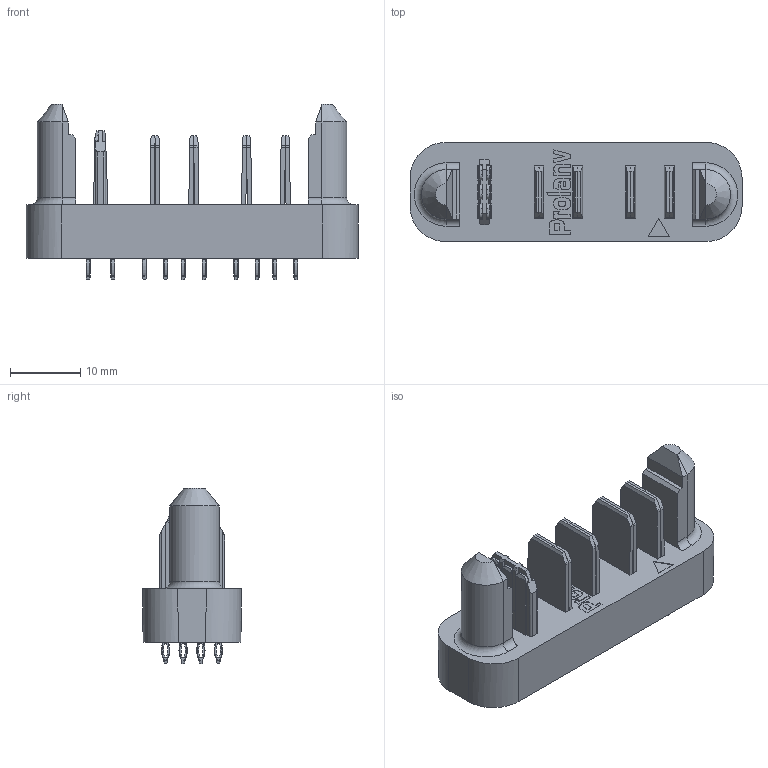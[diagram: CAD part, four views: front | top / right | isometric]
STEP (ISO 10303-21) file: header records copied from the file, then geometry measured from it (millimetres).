
FILE_DESCRIPTION(/* description */ (''),/* implementation_level */ '2;1');
FILE_NAME(/* name */ 'PDC01＋02信号优化Ｘ0.stp',/* time_stamp */ '2025-05-09T09:14:03+08:00',/* author */ (''),/* organization */ (''),/* preprocessor_version */ 'ST-DEVELOPER v16.7',/* originating_system */ 'SIEMENS PLM Software NX 1946',/* authorisation */ '');
FILE_SCHEMA (('AUTOMOTIVE_DESIGN { 1 0 10303 214 3 1 1 1 }'));
Products named in the file (1): PDC01＋02信号优化Ｘ0
Bounding box: 47.14 x 14.05 x 24.88 mm (x, y, z)
Volume: 5022.9 mm3; surface area: 6015.3 mm2
Topology: 1 solids, 1 shells, 2475 faces, 6339 edges, 3892 vertices
Faces by surface type: cylinder 956, plane 836, torus 642, extrusion 31, cone 10
Entity records: 90338 total; most frequent: CARTESIAN_POINT 14057, DIRECTION 14053, ORIENTED_EDGE 12678, EDGE_CURVE 6339, AXIS2_PLACEMENT_3D 5509, VERTEX_POINT 3892, VECTOR 3035, LINE 3004
